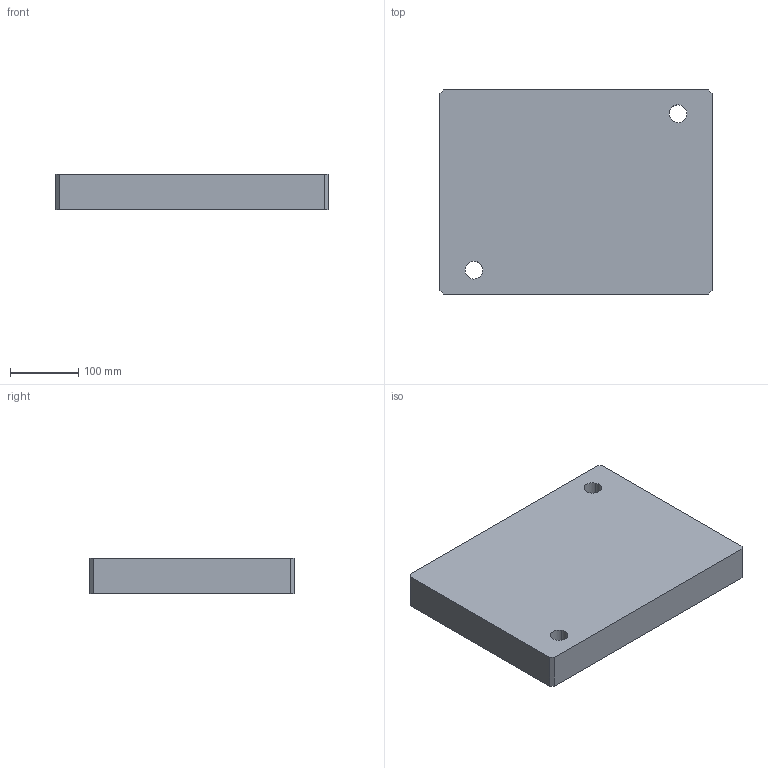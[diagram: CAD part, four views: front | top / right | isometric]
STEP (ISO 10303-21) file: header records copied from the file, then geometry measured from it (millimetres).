
FILE_DESCRIPTION(('CATIA V5 STEP Exchange','CAx-IF Rec.Pracs.--- Model Styling and Organization---1.5--- 2016-08-15','CAx-IF Rec.Pracs.---Supplemental Geometry---1.0---2011-11-01','CAx-IF Rec.Pracs.--- Composite Materials ---1.1---2010-07-15','CAx-IF Rec.Pracs.---External References---2.1---2005-01-19'),'2;1');
FILE_NAME('E:\WAT\Sprezarka\121_00_00_Tlocznik1\Tlocznik1_KPL\Tlocznik1_stp\121_01_07_Plyta.stp','2023-08-01T08:49:43+00:00',('none'),('none'),'CATIA Version 5-6 Release 2022 SP3','CATIA V5 STEP AP214 v2','none');
FILE_SCHEMA(('AUTOMOTIVE_DESIGN { 1 0 10303 214 1 1 1 1 }'));
Length unit declared in the file: millimetre
Products named in the file (1): 121_01_07_Plyta
Bounding box: 400 x 300 x 52 mm (x, y, z)
Volume: 6077752.2 mm3; surface area: 347166.6 mm2
Topology: 1 solids, 1 shells, 189 faces, 470 edges, 250 vertices
Faces by surface type: cylinder 90, cone 76, plane 23
Entity records: 4686 total; most frequent: ORIENTED_EDGE 788, CARTESIAN_POINT 752, DIRECTION 608, EDGE_CURVE 394, AXIS2_PLACEMENT_3D 288, VERTEX_POINT 250, EDGE_LOOP 236, VECTOR 214
